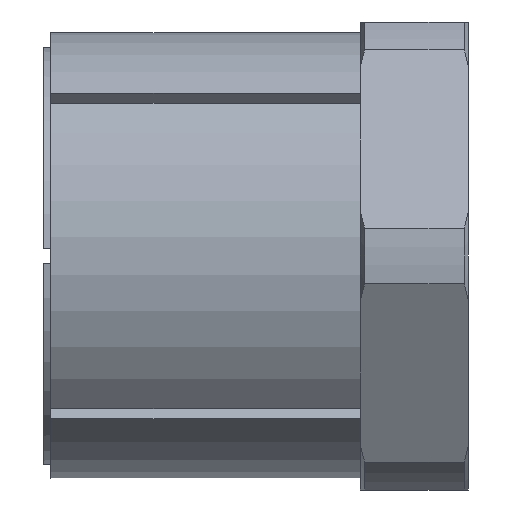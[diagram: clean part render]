
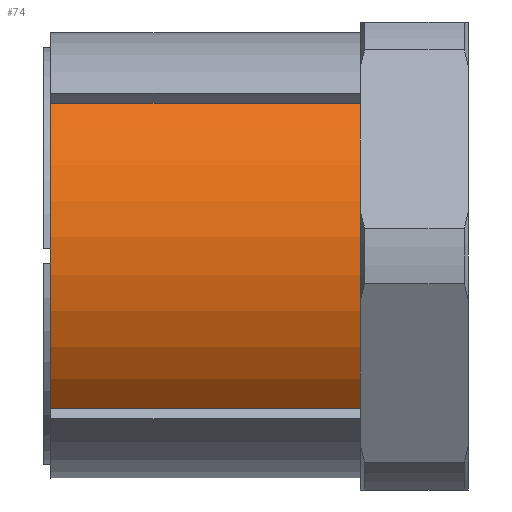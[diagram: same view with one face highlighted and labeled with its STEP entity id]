
A CAD part, front view. The second image highlights one B-rep face of the part: STEP entity #74.
In plain terms, the highlighted cylindrical face has radius 31 mm (diameter 62 mm), a partial arc.
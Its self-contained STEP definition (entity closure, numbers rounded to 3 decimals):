
#74 = ADVANCED_FACE ( 'NONE', ( #1677 ), #1685, .T. ) ;
#99 = VERTEX_POINT ( 'NONE', #2529 ) ;
#106 = VERTEX_POINT ( 'NONE', #2523 ) ;
#169 = VERTEX_POINT ( 'NONE', #2477 ) ;
#195 = VERTEX_POINT ( 'NONE', #2448 ) ;
#389 = EDGE_CURVE ( 'NONE', #169, #106, #1747, .T. ) ;
#399 = EDGE_CURVE ( 'NONE', #195, #106, #1758, .T. ) ;
#400 = EDGE_CURVE ( 'NONE', #99, #195, #1762, .T. ) ;
#401 = EDGE_CURVE ( 'NONE', #169, #99, #1756, .T. ) ;
#771 = ORIENTED_EDGE ( 'NONE', *, *, #401, .T. ) ;
#772 = ORIENTED_EDGE ( 'NONE', *, *, #389, .F. ) ;
#773 = ORIENTED_EDGE ( 'NONE', *, *, #399, .T. ) ;
#774 = ORIENTED_EDGE ( 'NONE', *, *, #400, .T. ) ;
#1424 = EDGE_LOOP ( 'NONE', ( #774, #773, #772, #771 ) ) ;
#1677 = FACE_OUTER_BOUND ( 'NONE', #1424, .T. ) ;
#1685 = CYLINDRICAL_SURFACE ( 'NONE', #2022, 31. ) ;
#1747 = CIRCLE ( 'NONE', #2012, 31. ) ;
#1753 = VECTOR ( 'NONE', #2221, 1000. ) ;
#1754 = VECTOR ( 'NONE', #2207, 1000. ) ;
#1756 = LINE ( 'NONE', #2210, #1754 ) ;
#1758 = LINE ( 'NONE', #2231, #1753 ) ;
#1762 = CIRCLE ( 'NONE', #2005, 31. ) ;
#2005 = AXIS2_PLACEMENT_3D ( 'NONE', #2219, #2217, #2214 ) ;
#2012 = AXIS2_PLACEMENT_3D ( 'NONE', #2270, #2268, #2266 ) ;
#2022 = AXIS2_PLACEMENT_3D ( 'NONE', #2561, #2562, #2566 ) ;
#2207 = DIRECTION ( 'NONE',  ( 1., 0., 0. ) ) ;
#2210 = CARTESIAN_POINT ( 'NONE',  ( 0., -22.616, -21.202 ) ) ;
#2214 = DIRECTION ( 'NONE',  ( 0., 0., 1. ) ) ;
#2217 = DIRECTION ( 'NONE',  ( -1., 0., 0. ) ) ;
#2219 = CARTESIAN_POINT ( 'NONE',  ( 43., 0., 0. ) ) ;
#2221 = DIRECTION ( 'NONE',  ( -1., 0., 0. ) ) ;
#2231 = CARTESIAN_POINT ( 'NONE',  ( 0., -22.616, 21.202 ) ) ;
#2266 = DIRECTION ( 'NONE',  ( 0., 0., 1. ) ) ;
#2268 = DIRECTION ( 'NONE',  ( -1., 0., 0. ) ) ;
#2270 = CARTESIAN_POINT ( 'NONE',  ( 0., 0., 0. ) ) ;
#2448 = CARTESIAN_POINT ( 'NONE',  ( 43., -22.616, 21.202 ) ) ;
#2477 = CARTESIAN_POINT ( 'NONE',  ( 0., -22.616, -21.202 ) ) ;
#2523 = CARTESIAN_POINT ( 'NONE',  ( 0., -22.616, 21.202 ) ) ;
#2529 = CARTESIAN_POINT ( 'NONE',  ( 43., -22.616, -21.202 ) ) ;
#2561 = CARTESIAN_POINT ( 'NONE',  ( 0., 0., 0. ) ) ;
#2562 = DIRECTION ( 'NONE',  ( -1., 0., 0. ) ) ;
#2566 = DIRECTION ( 'NONE',  ( 0., 0., 1. ) ) ;
